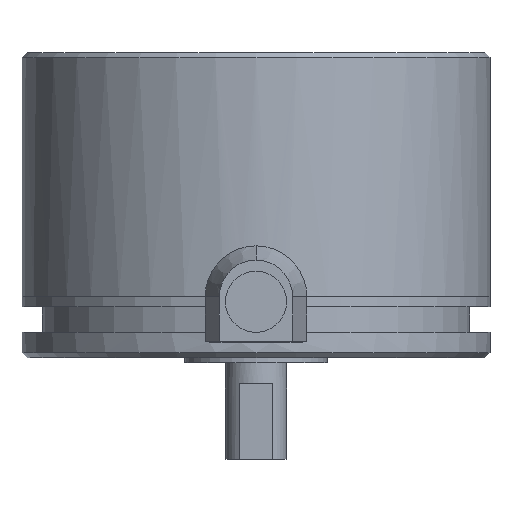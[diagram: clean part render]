
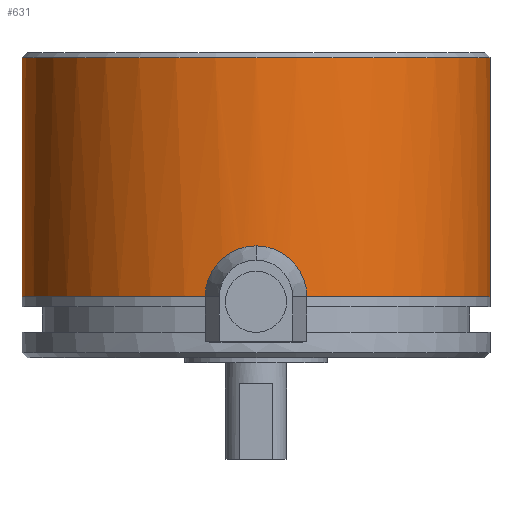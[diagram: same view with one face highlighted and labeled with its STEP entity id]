
A CAD part, front view. The second image highlights one B-rep face of the part: STEP entity #631.
In plain terms, the highlighted cylindrical face has radius 23 mm (diameter 46 mm), a partial arc.
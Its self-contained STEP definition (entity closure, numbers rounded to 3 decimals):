
#631=ADVANCED_FACE('',(#851),#852,.T.);
#851=FACE_OUTER_BOUND('',#1126,.T.);
#852=CYLINDRICAL_SURFACE('',#1127,23.0);
#1126=EDGE_LOOP('',(#1795,#1796,#1797,#1798,#1799,#1800,#1801));
#1127=AXIS2_PLACEMENT_3D('',#1802,#1803,#1804);
#1795=ORIENTED_EDGE('',*,*,#2328,.F.);
#1796=ORIENTED_EDGE('',*,*,#2329,.T.);
#1797=ORIENTED_EDGE('',*,*,#2325,.F.);
#1798=ORIENTED_EDGE('',*,*,#2330,.F.);
#1799=ORIENTED_EDGE('',*,*,#2331,.T.);
#1800=ORIENTED_EDGE('',*,*,#2332,.F.);
#1801=ORIENTED_EDGE('',*,*,#2333,.T.);
#1802=CARTESIAN_POINT('',(0.,0.0,30.0));
#1803=DIRECTION('',(0.0,-0.0,1.0));
#1804=DIRECTION('',(-1.0,0.0,0.0));
#2325=EDGE_CURVE('',#2709,#2712,#2713,.T.);
#2328=EDGE_CURVE('',#2717,#2718,#2719,.T.);
#2329=EDGE_CURVE('',#2717,#2712,#2720,.T.);
#2330=EDGE_CURVE('',#2721,#2709,#2722,.T.);
#2331=EDGE_CURVE('',#2721,#2723,#2724,.T.);
#2332=EDGE_CURVE('',#2725,#2723,#2726,.T.);
#2333=EDGE_CURVE('',#2725,#2718,#2727,.F.);
#2709=VERTEX_POINT('',#3239);
#2712=VERTEX_POINT('',#3243);
#2713=B_SPLINE_CURVE_WITH_KNOTS('',3,(#3244,#3245,#3246,#3247,#3248,#3249,#3250,#3251,#3252,#3253,#3254,#3255,#3256,#3257,#3258,#3259,#3260,#3261,#3262,#3263,#3264,#3265,#3266,#3267,#3268,#3269,#3270,#3271,#3272,#3273,#3274,#3275,#3276,#3277),.UNSPECIFIED.,.F.,.F.,(4,2,2,2,2,2,2,2,2,2,2,2,2,2,2,2,4),(0.0,0.001,0.001,0.002,0.003,0.003,0.004,0.005,0.005,0.006,0.007,0.008,0.008,0.009,0.01,0.01,0.011),.UNSPECIFIED.);
#2717=VERTEX_POINT('',#3315);
#2718=VERTEX_POINT('',#3316);
#2719=LINE('',#3317,#3318);
#2720=CIRCLE('',#3319,23.0);
#2721=VERTEX_POINT('',#3320);
#2722=B_SPLINE_CURVE_WITH_KNOTS('',3,(#3321,#3322,#3323,#3324,#3325,#3326,#3327,#3328,#3329,#3330,#3331,#3332,#3333,#3334,#3335,#3336,#3337,#3338,#3339,#3340,#3341,#3342,#3343,#3344,#3345,#3346,#3347,#3348,#3349,#3350,#3351,#3352,#3353,#3354),.UNSPECIFIED.,.F.,.F.,(4,2,2,2,2,2,2,2,2,2,2,2,2,2,2,2,4),(0.0,0.001,0.001,0.002,0.003,0.003,0.004,0.005,0.005,0.006,0.007,0.008,0.008,0.009,0.01,0.01,0.011),.UNSPECIFIED.);
#2723=VERTEX_POINT('',#3355);
#2724=CIRCLE('',#3356,23.0);
#2725=VERTEX_POINT('',#3357);
#2726=LINE('',#3358,#3359);
#2727=CIRCLE('',#3360,23.0);
#3239=CARTESIAN_POINT('',(0.,-23.,9.5));
#3243=CARTESIAN_POINT('',(-3.5,-22.732,6.0));
#3244=CARTESIAN_POINT('',(3.5,-22.732,6.0));
#3245=CARTESIAN_POINT('',(3.5,-22.732,6.232));
#3246=CARTESIAN_POINT('',(3.477,-22.736,6.459));
#3247=CARTESIAN_POINT('',(3.388,-22.749,6.907));
#3248=CARTESIAN_POINT('',(3.321,-22.759,7.129));
#3249=CARTESIAN_POINT('',(3.145,-22.784,7.553));
#3250=CARTESIAN_POINT('',(3.037,-22.799,7.754));
#3251=CARTESIAN_POINT('',(2.784,-22.831,8.134));
#3252=CARTESIAN_POINT('',(2.636,-22.849,8.314));
#3253=CARTESIAN_POINT('',(2.314,-22.884,8.636));
#3254=CARTESIAN_POINT('',(2.138,-22.901,8.781));
#3255=CARTESIAN_POINT('',(1.755,-22.934,9.037));
#3256=CARTESIAN_POINT('',(1.552,-22.949,9.145));
#3257=CARTESIAN_POINT('',(1.131,-22.973,9.32));
#3258=CARTESIAN_POINT('',(0.91,-22.983,9.387));
#3259=CARTESIAN_POINT('',(0.459,-22.997,9.477));
#3260=CARTESIAN_POINT('',(0.231,-23.,9.5));
#3261=CARTESIAN_POINT('',(-0.226,-23.,9.5));
#3262=CARTESIAN_POINT('',(-0.458,-22.997,9.477));
#3263=CARTESIAN_POINT('',(-0.907,-22.983,9.388));
#3264=CARTESIAN_POINT('',(-1.126,-22.973,9.322));
#3265=CARTESIAN_POINT('',(-1.55,-22.949,9.147));
#3266=CARTESIAN_POINT('',(-1.754,-22.934,9.037));
#3267=CARTESIAN_POINT('',(-2.133,-22.902,8.784));
#3268=CARTESIAN_POINT('',(-2.31,-22.884,8.639));
#3269=CARTESIAN_POINT('',(-2.637,-22.849,8.313));
#3270=CARTESIAN_POINT('',(-2.781,-22.832,8.137));
#3271=CARTESIAN_POINT('',(-3.035,-22.799,7.759));
#3272=CARTESIAN_POINT('',(-3.145,-22.784,7.554));
#3273=CARTESIAN_POINT('',(-3.32,-22.759,7.131));
#3274=CARTESIAN_POINT('',(-3.387,-22.749,6.912));
#3275=CARTESIAN_POINT('',(-3.477,-22.736,6.463));
#3276=CARTESIAN_POINT('',(-3.5,-22.732,6.232));
#3277=CARTESIAN_POINT('',(-3.5,-22.732,6.0));
#3315=CARTESIAN_POINT('',(-23.0,0.,6.0));
#3316=CARTESIAN_POINT('',(-23.0,0.,29.5));
#3317=CARTESIAN_POINT('',(-23.0,0.,17.75));
#3318=VECTOR('',#3966,1.0);
#3319=AXIS2_PLACEMENT_3D('',#3967,#3968,#3969);
#3320=CARTESIAN_POINT('',(3.5,-22.732,6.0));
#3321=CARTESIAN_POINT('',(3.5,-22.732,6.0));
#3322=CARTESIAN_POINT('',(3.5,-22.732,6.232));
#3323=CARTESIAN_POINT('',(3.477,-22.736,6.459));
#3324=CARTESIAN_POINT('',(3.388,-22.749,6.907));
#3325=CARTESIAN_POINT('',(3.321,-22.759,7.129));
#3326=CARTESIAN_POINT('',(3.145,-22.784,7.553));
#3327=CARTESIAN_POINT('',(3.037,-22.799,7.754));
#3328=CARTESIAN_POINT('',(2.784,-22.831,8.134));
#3329=CARTESIAN_POINT('',(2.636,-22.849,8.314));
#3330=CARTESIAN_POINT('',(2.314,-22.884,8.636));
#3331=CARTESIAN_POINT('',(2.138,-22.901,8.781));
#3332=CARTESIAN_POINT('',(1.755,-22.934,9.037));
#3333=CARTESIAN_POINT('',(1.552,-22.949,9.145));
#3334=CARTESIAN_POINT('',(1.131,-22.973,9.32));
#3335=CARTESIAN_POINT('',(0.91,-22.983,9.387));
#3336=CARTESIAN_POINT('',(0.459,-22.997,9.477));
#3337=CARTESIAN_POINT('',(0.231,-23.,9.5));
#3338=CARTESIAN_POINT('',(-0.226,-23.,9.5));
#3339=CARTESIAN_POINT('',(-0.458,-22.997,9.477));
#3340=CARTESIAN_POINT('',(-0.907,-22.983,9.388));
#3341=CARTESIAN_POINT('',(-1.126,-22.973,9.322));
#3342=CARTESIAN_POINT('',(-1.55,-22.949,9.147));
#3343=CARTESIAN_POINT('',(-1.754,-22.934,9.037));
#3344=CARTESIAN_POINT('',(-2.133,-22.902,8.784));
#3345=CARTESIAN_POINT('',(-2.31,-22.884,8.639));
#3346=CARTESIAN_POINT('',(-2.637,-22.849,8.313));
#3347=CARTESIAN_POINT('',(-2.781,-22.832,8.137));
#3348=CARTESIAN_POINT('',(-3.035,-22.799,7.759));
#3349=CARTESIAN_POINT('',(-3.145,-22.784,7.554));
#3350=CARTESIAN_POINT('',(-3.32,-22.759,7.131));
#3351=CARTESIAN_POINT('',(-3.387,-22.749,6.912));
#3352=CARTESIAN_POINT('',(-3.477,-22.736,6.463));
#3353=CARTESIAN_POINT('',(-3.5,-22.732,6.232));
#3354=CARTESIAN_POINT('',(-3.5,-22.732,6.0));
#3355=CARTESIAN_POINT('',(23.0,0.,6.0));
#3356=AXIS2_PLACEMENT_3D('',#3970,#3971,#3972);
#3357=CARTESIAN_POINT('',(23.0,0.0,29.5));
#3358=CARTESIAN_POINT('',(23.0,0.,17.75));
#3359=VECTOR('',#3973,1.0);
#3360=AXIS2_PLACEMENT_3D('',#3974,#3975,#3976);
#3966=DIRECTION('',(0.0,-0.0,1.0));
#3967=CARTESIAN_POINT('',(0.,0.0,6.0));
#3968=DIRECTION('',(0.0,0.0,1.0));
#3969=DIRECTION('',(1.0,0.0,0.0));
#3970=CARTESIAN_POINT('',(0.,0.0,6.0));
#3971=DIRECTION('',(0.0,0.0,1.0));
#3972=DIRECTION('',(1.0,0.0,0.0));
#3973=DIRECTION('',(0.0,-0.0,-1.0));
#3974=CARTESIAN_POINT('',(0.,0.0,29.5));
#3975=DIRECTION('',(0.0,0.0,1.0));
#3976=DIRECTION('',(1.0,0.0,0.0));
